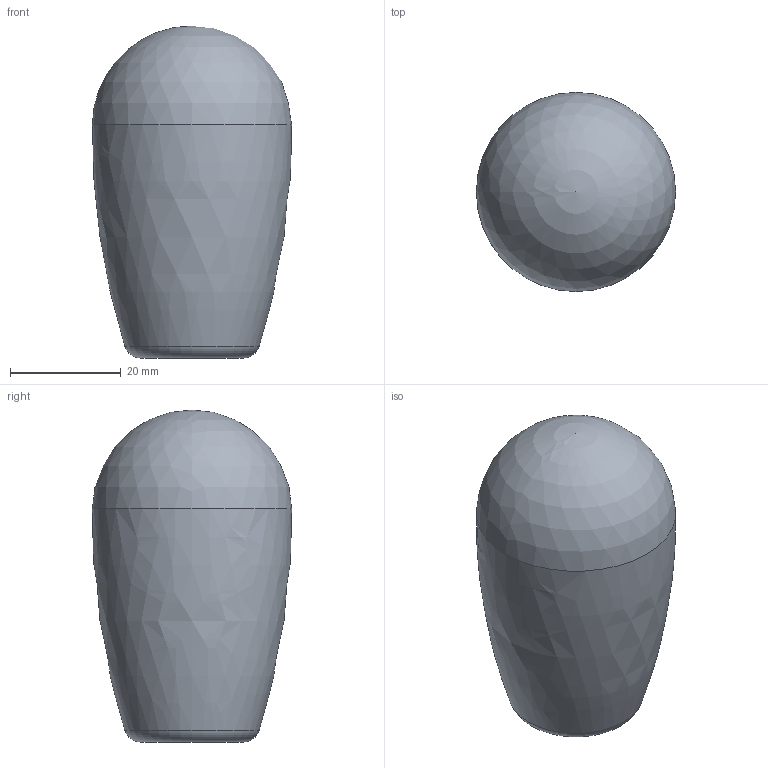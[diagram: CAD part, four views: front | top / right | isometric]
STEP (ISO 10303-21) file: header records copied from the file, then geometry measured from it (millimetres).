
FILE_DESCRIPTION( ('This file contains a STEP AP42 implementation' ,'as created by ZW3D STEP Interface translator.') ,'2;1' );
FILE_NAME( 'Galka owalna B 36.12.stp' ,'26 813. 73323', (''), ('ZWCAD Software Co.'), 'Version 1.0', 'ZW3D to STEP translator', '' );
FILE_SCHEMA(('AP242_MANAGED_MODEL_BASED_3D_ENGINEERING_MIM_LF { 1 0 10303 442 1 1 4 }'));
Length unit declared in the file: millimetre
Products named in the file (1): 0
Bounding box: 36 x 36 x 60 mm (x, y, z)
Volume: 43166.8 mm3; surface area: 7983 mm2
Topology: 1 solids, 1 shells, 8 faces, 14 edges, 8 vertices
Faces by surface type: cylinder 2, plane 2, sphere 1, bspline 1, torus 1, cone 1
Full cylindrical faces by diameter (mm): 8.5 x2
Entity records: 241 total; most frequent: CARTESIAN_POINT 56, DIRECTION 39, ORIENTED_EDGE 26, AXIS2_PLACEMENT_3D 18, EDGE_CURVE 13, CIRCLE 10, EDGE_LOOP 9, VERTEX_POINT 8
